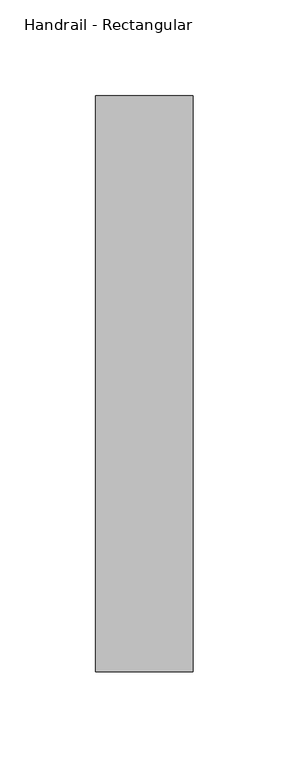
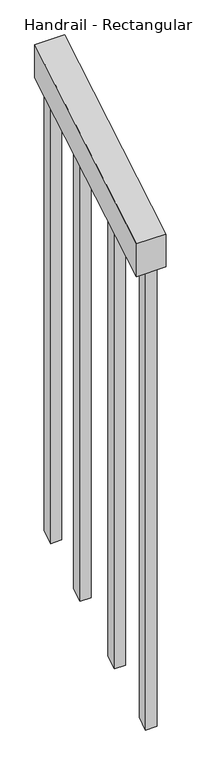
"""IFC4 building model written with IfcOpenShell, lengths in millimetres: railing geometry, Handrail - Rectangular."""

from ifc_helpers import new_model, si_unit, frame, origin, place, context, project, spatial, polyline, outline, extrude, source, transform, mapped, element, save


def handrail_rectangular_3897df66(model_context):
    return source(origin(), model_context, "Body", "SweptSolid", [
        extrude(outline(polyline([(1959.3790009, 731.9333757), (1959.3790009, 790.8705882), (2259.3790009, 967.3411765), (2259.3790009, 908.403964), (1959.3790009, 731.9333757)])), frame((-11079.0909741, 0.0, 0.0), z_axis=(1.0, 0.0, 0.0), x_axis=(0.0, 1.0, 0.0)), (0.0, 0.0, 1.0), 50.8),
        extrude(outline(polyline([(2153.0540009, 845.8598463), (2172.1040009, 857.0657287), (2172.1040009, 35.6076417), (2153.0540009, 24.4017594), (2153.0540009, 845.8598463)])), frame((-11063.2159741, 0.0, 0.0), z_axis=(1.0, 0.0, 0.0), x_axis=(0.0, 1.0, 0.0)), (0.0, 0.0, 1.0), 19.05),
        extrude(outline(polyline([(2051.4540009, 786.0951404), (2070.5040009, 797.3010228), (2070.5040009, -24.1570642), (2051.4540009, -35.3629465), (2051.4540009, 786.0951404)])), frame((-11063.2159741, 0.0, 0.0), z_axis=(1.0, 0.0, 0.0), x_axis=(0.0, 1.0, 0.0)), (0.0, 0.0, 1.0), 19.05),
        extrude(outline(polyline([(2240.3290009, 897.1980816), (2259.3790009, 908.403964), (2259.3790009, 86.945877), (2240.3290009, 75.7399947), (2240.3290009, 897.1980816)])), frame((-11063.2159741, 0.0, 0.0), z_axis=(1.0, 0.0, 0.0), x_axis=(0.0, 1.0, 0.0)), (0.0, 0.0, 1.0), 19.05),
        extrude(outline(polyline([(1959.3790009, 731.9333757), (1978.4290009, 743.1392581), (1978.4290009, -78.3188289), (1959.3790009, -89.5247112), (1959.3790009, 731.9333757)])), frame((-11063.2159741, 0.0, 0.0), z_axis=(1.0, 0.0, 0.0), x_axis=(0.0, 1.0, 0.0)), (0.0, 0.0, 1.0), 19.05),
    ])


if __name__ == "__main__":
    model = new_model("IFC4")
    model_context = context("Model", 3, world=origin())
    ifc_project = project(units=[si_unit("LENGTHUNIT", "METRE", prefix="MILLI")], contexts=[model_context])
    site = spatial("IfcSite", under=ifc_project)
    building = spatial("IfcBuilding", under=site)
    placement = place(None, origin())
    handrail_rectangular_shape = handrail_rectangular_3897df66(model_context)
    element("IfcRailing", 1, ObjectType="Handrail - Rectangular", at=placement, inside=building, context=model_context, shape_type="MappedRepresentation", body=[
        mapped(handrail_rectangular_shape, transform((0.0, 0.0, 0.0), x_axis=(1.0, 0.0, 0.0), y_axis=(0.0, 1.0, 0.0), z_axis=(0.0, 0.0, 1.0))),
    ])
    save(model, "model.ifc")
